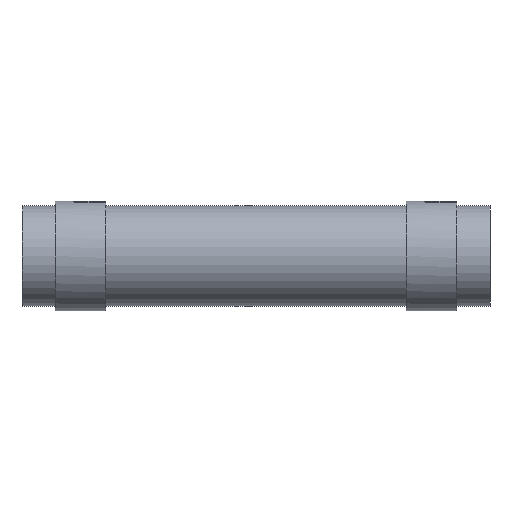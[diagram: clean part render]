
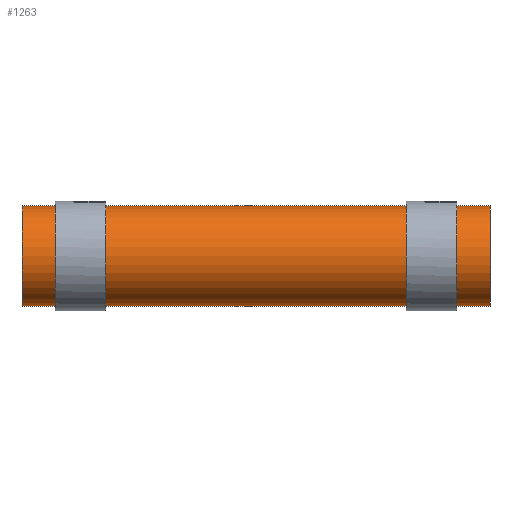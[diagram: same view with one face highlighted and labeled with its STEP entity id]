
A CAD part, front view. The second image highlights one B-rep face of the part: STEP entity #1263.
In plain terms, the highlighted cylindrical face has radius 9.525 mm (diameter 19.05 mm), a partial arc.
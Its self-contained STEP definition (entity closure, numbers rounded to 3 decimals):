
#36 = CARTESIAN_POINT ( 'NONE',  ( 44.45, 0., 0. ) ) ;
#37 = DIRECTION ( 'NONE',  ( 0., 0., -1. ) ) ;
#38 = DIRECTION ( 'NONE',  ( 1., 0., 0. ) ) ;
#74 = CARTESIAN_POINT ( 'NONE',  ( -44.45, 0., -9.525 ) ) ;
#78 = CARTESIAN_POINT ( 'NONE',  ( -44.45, 0., 9.525 ) ) ;
#91 = CARTESIAN_POINT ( 'NONE',  ( 44.45, 0., 9.525 ) ) ;
#98 = DIRECTION ( 'NONE',  ( -1., 0., 0. ) ) ;
#100 = CARTESIAN_POINT ( 'NONE',  ( 44.45, 0., -9.525 ) ) ;
#211 = DIRECTION ( 'NONE',  ( -1., 0., 0. ) ) ;
#261 = DIRECTION ( 'NONE',  ( -1., 0., 0. ) ) ;
#287 = CARTESIAN_POINT ( 'NONE',  ( 44.45, 0., 9.525 ) ) ;
#388 = DIRECTION ( 'NONE',  ( 0., 0., 1. ) ) ;
#436 = DIRECTION ( 'NONE',  ( 1., 0., 0. ) ) ;
#453 = DIRECTION ( 'NONE',  ( 0., 0., -1. ) ) ;
#465 = CARTESIAN_POINT ( 'NONE',  ( -44.45, 0., 0. ) ) ;
#498 = CARTESIAN_POINT ( 'NONE',  ( 44.45, 0., 0. ) ) ;
#603 = CARTESIAN_POINT ( 'NONE',  ( 44.45, 0., -9.525 ) ) ;
#741 = EDGE_CURVE ( 'NONE', #1130, #1231, #1481, .T. ) ;
#781 = AXIS2_PLACEMENT_3D ( 'NONE', #465, #436, #453 ) ;
#842 = AXIS2_PLACEMENT_3D ( 'NONE', #36, #38, #37 ) ;
#868 = EDGE_CURVE ( 'NONE', #983, #1130, #1452, .T. ) ;
#917 = EDGE_CURVE ( 'NONE', #983, #1235, #1547, .T. ) ;
#948 = AXIS2_PLACEMENT_3D ( 'NONE', #498, #211, #388 ) ;
#966 = EDGE_CURVE ( 'NONE', #1235, #1231, #1588, .T. ) ;
#974 = ORIENTED_EDGE ( 'NONE', *, *, #917, .F. ) ;
#983 = VERTEX_POINT ( 'NONE', #91 ) ;
#1116 = ORIENTED_EDGE ( 'NONE', *, *, #741, .T. ) ;
#1119 = ORIENTED_EDGE ( 'NONE', *, *, #966, .F. ) ;
#1124 = ORIENTED_EDGE ( 'NONE', *, *, #868, .T. ) ;
#1130 = VERTEX_POINT ( 'NONE', #78 ) ;
#1202 = EDGE_LOOP ( 'NONE', ( #1119, #974, #1124, #1116 ) ) ;
#1231 = VERTEX_POINT ( 'NONE', #74 ) ;
#1235 = VERTEX_POINT ( 'NONE', #603 ) ;
#1263 = ADVANCED_FACE ( 'NONE', ( #1595 ), #1612, .T. ) ;
#1442 = VECTOR ( 'NONE', #261, 1000. ) ;
#1452 = LINE ( 'NONE', #287, #1442 ) ;
#1481 = CIRCLE ( 'NONE', #781, 9.525 ) ;
#1547 = CIRCLE ( 'NONE', #842, 9.525 ) ;
#1588 = LINE ( 'NONE', #100, #1593 ) ;
#1593 = VECTOR ( 'NONE', #98, 1000. ) ;
#1595 = FACE_OUTER_BOUND ( 'NONE', #1202, .T. ) ;
#1612 = CYLINDRICAL_SURFACE ( 'NONE', #948, 9.525 ) ;
